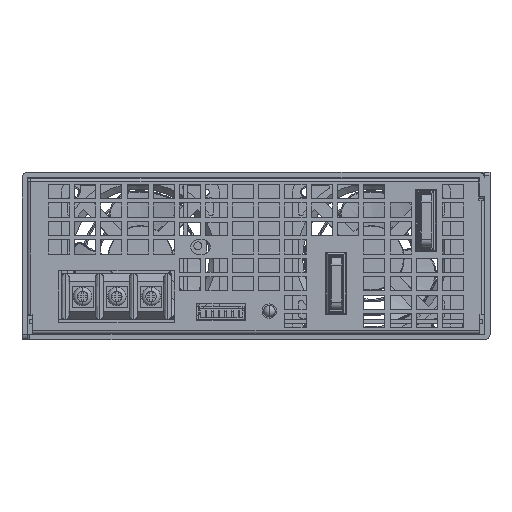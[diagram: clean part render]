
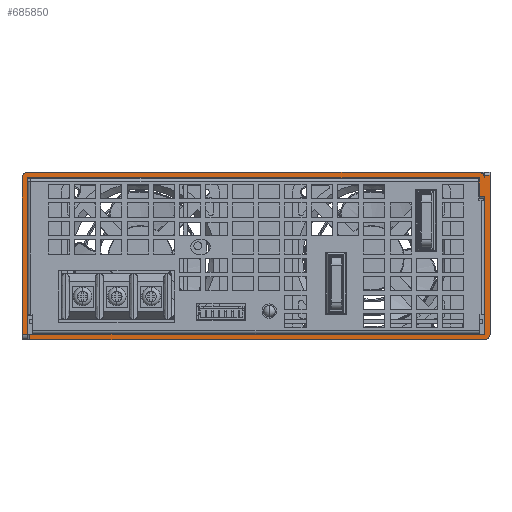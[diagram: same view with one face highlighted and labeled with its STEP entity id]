
A CAD part, left-side view. The second image highlights one B-rep face of the part: STEP entity #685850.
In plain terms, the highlighted planar face has unit normal (-1, 0, 0).
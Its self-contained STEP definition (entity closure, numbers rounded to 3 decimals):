
#627630=CARTESIAN_POINT('',(-2095.796,-302.592,
0.1));
#627640=VERTEX_POINT('',#627630);
#627670=CARTESIAN_POINT('',(-2095.796,-302.492,0.1));
#627680=DIRECTION('',(-1.,0.,0.));
#627690=DIRECTION('',(0.,0.,-1.));
#627700=AXIS2_PLACEMENT_3D('',#627670,#627680,#627690);
#627710=CIRCLE('',#627700,0.1);
#627720=CARTESIAN_POINT('',(-2095.796,-302.492,0.));
#627730=VERTEX_POINT('',#627720);
#627740=EDGE_CURVE('',#627730,#627640,#627710,.T.);
#630170=CARTESIAN_POINT('',(-2095.796,-302.592,60.5));
#630180=VERTEX_POINT('',#630170);
#630210=CARTESIAN_POINT('',(-2095.796,-302.592,
1.807));
#630220=DIRECTION('',(0.,0.,1.));
#630230=VECTOR('',#630220,1.);
#630240=LINE('',#630210,#630230);
#630250=CARTESIAN_POINT('',(-2095.796,-302.592,59.4));
#630260=VERTEX_POINT('',#630250);
#630270=EDGE_CURVE('',#630260,#630180,#630240,.T.);
#630970=CARTESIAN_POINT('',(-2095.796,-302.592,52.5));
#630980=VERTEX_POINT('',#630970);
#631010=EDGE_CURVE('',#627640,#630980,#630240,.T.);
#670610=CARTESIAN_POINT('',(-2095.796,-129.792,-2.));
#670620=VERTEX_POINT('',#670610);
#670670=CARTESIAN_POINT('',(-2095.796,-304.592,-2.));
#670680=DIRECTION('',(0.,-1.,0.));
#670690=VECTOR('',#670680,1.);
#670700=LINE('',#670670,#670690);
#670710=CARTESIAN_POINT('',(-2095.796,-302.492,-2.));
#670720=VERTEX_POINT('',#670710);
#670730=EDGE_CURVE('',#670620,#670720,#670700,.T.);
#676280=CARTESIAN_POINT('',(-2095.796,-300.492,59.4));
#676290=DIRECTION('',(-1.,0.,0.));
#676300=DIRECTION('',(0.,-1.,0.));
#676310=AXIS2_PLACEMENT_3D('',#676280,#676290,#676300);
#676320=CIRCLE('',#676310,0.1);
#676330=CARTESIAN_POINT('',(-2095.796,-300.592,59.4));
#676340=VERTEX_POINT('',#676330);
#676350=CARTESIAN_POINT('',(-2095.796,-300.492,59.5));
#676360=VERTEX_POINT('',#676350);
#676370=EDGE_CURVE('',#676340,#676360,#676320,.T.);
#677580=CARTESIAN_POINT('',(-2095.796,-300.592,52.5));
#677590=VERTEX_POINT('',#677580);
#677620=CARTESIAN_POINT('',(-2095.796,-290.441,52.5));
#677630=DIRECTION('',(0.,1.,0.));
#677640=VECTOR('',#677630,1.);
#677650=LINE('',#677620,#677640);
#677660=EDGE_CURVE('',#630980,#677590,#677650,.T.);
#677860=CARTESIAN_POINT('',(-2095.796,-300.592,
55.693));
#677870=DIRECTION('',(0.,0.,1.));
#677880=VECTOR('',#677870,1.);
#677890=LINE('',#677860,#677880);
#677900=EDGE_CURVE('',#677590,#676340,#677890,.T.);
#684690=CARTESIAN_POINT('',(-2095.796,-302.592,
-173.993));
#684700=DIRECTION('',(-1.,0.,0.));
#684710=DIRECTION('',(0.,0.,-1.));
#684720=AXIS2_PLACEMENT_3D('',#684690,#684700,#684710);
#684730=PLANE('',#684720);
#684740=CARTESIAN_POINT('',(-2095.796,-304.592,0.));
#684750=DIRECTION('',(0.,-1.,0.));
#684760=VECTOR('',#684750,1.);
#684770=LINE('',#684740,#684760);
#684780=CARTESIAN_POINT('',(-2095.796,-129.792,0.));
#684790=VERTEX_POINT('',#684780);
#684800=EDGE_CURVE('',#684790,#627730,#684770,.T.);
#684810=ORIENTED_EDGE('',*,*,#684800,.F.);
#684820=ORIENTED_EDGE('',*,*,#627740,.F.);
#684830=ORIENTED_EDGE('',*,*,#631010,.F.);
#684840=ORIENTED_EDGE('',*,*,#677660,.F.);
#684850=ORIENTED_EDGE('',*,*,#677900,.F.);
#684860=ORIENTED_EDGE('',*,*,#676370,.F.);
#684870=CARTESIAN_POINT('',(-2095.796,-304.592,59.5));
#684880=DIRECTION('',(0.,1.,0.));
#684890=VECTOR('',#684880,1.);
#684900=LINE('',#684870,#684890);
#684910=CARTESIAN_POINT('',(-2095.796,-128.892,59.5));
#684920=VERTEX_POINT('',#684910);
#684930=EDGE_CURVE('',#676360,#684920,#684900,.T.);
#684940=ORIENTED_EDGE('',*,*,#684930,.F.);
#684950=CARTESIAN_POINT('',(-2095.796,-128.892,59.4));
#684960=DIRECTION('',(-1.,0.,0.));
#684970=DIRECTION('',(0.,0.,1.));
#684980=AXIS2_PLACEMENT_3D('',#684950,#684960,#684970);
#684990=CIRCLE('',#684980,0.1);
#685000=CARTESIAN_POINT('',(-2095.796,-128.792,59.4));
#685010=VERTEX_POINT('',#685000);
#685020=EDGE_CURVE('',#684920,#685010,#684990,.T.);
#685030=ORIENTED_EDGE('',*,*,#685020,.F.);
#685040=CARTESIAN_POINT('',(-2095.796,-128.792,59.5));
#685050=DIRECTION('',(0.,0.,-1.));
#685060=VECTOR('',#685050,1.);
#685070=LINE('',#685040,#685060);
#685080=CARTESIAN_POINT('',(-2095.796,-128.792,0.));
#685090=VERTEX_POINT('',#685080);
#685100=EDGE_CURVE('',#685010,#685090,#685070,.T.);
#685110=ORIENTED_EDGE('',*,*,#685100,.F.);
#685120=CARTESIAN_POINT('',(-2095.796,-290.441,0.));
#685130=DIRECTION('',(0.,-1.,0.));
#685140=VECTOR('',#685130,1.);
#685150=LINE('',#685120,#685140);
#685160=CARTESIAN_POINT('',(-2095.796,-126.792,0.));
#685170=VERTEX_POINT('',#685160);
#685180=EDGE_CURVE('',#685170,#685090,#685150,.T.);
#685190=ORIENTED_EDGE('',*,*,#685180,.T.);
#685200=CARTESIAN_POINT('',(-2095.796,-126.792,59.5));
#685210=DIRECTION('',(0.,0.,-1.));
#685220=VECTOR('',#685210,1.);
#685230=LINE('',#685200,#685220);
#685240=CARTESIAN_POINT('',(-2095.796,-126.792,59.4));
#685250=VERTEX_POINT('',#685240);
#685260=EDGE_CURVE('',#685250,#685170,#685230,.T.);
#685270=ORIENTED_EDGE('',*,*,#685260,.T.);
#685280=CARTESIAN_POINT('',(-2095.796,-128.892,59.4));
#685290=DIRECTION('',(-1.,0.,0.));
#685300=DIRECTION('',(0.,0.,1.));
#685310=AXIS2_PLACEMENT_3D('',#685280,#685290,#685300);
#685320=CIRCLE('',#685310,2.1);
#685330=CARTESIAN_POINT('',(-2095.796,-128.892,61.5));
#685340=VERTEX_POINT('',#685330);
#685350=EDGE_CURVE('',#685340,#685250,#685320,.T.);
#685360=ORIENTED_EDGE('',*,*,#685350,.T.);
#685370=CARTESIAN_POINT('',(-2095.796,-128.792,61.5));
#685380=DIRECTION('',(0.,1.,0.));
#685390=VECTOR('',#685380,1.);
#685400=LINE('',#685370,#685390);
#685410=CARTESIAN_POINT('',(-2095.796,-300.492,61.5));
#685420=VERTEX_POINT('',#685410);
#685430=EDGE_CURVE('',#685420,#685340,#685400,.T.);
#685440=ORIENTED_EDGE('',*,*,#685430,.T.);
#685450=CARTESIAN_POINT('',(-2095.796,-300.492,59.4));
#685460=DIRECTION('',(-1.,0.,0.));
#685470=DIRECTION('',(0.,-1.,0.));
#685480=AXIS2_PLACEMENT_3D('',#685450,#685460,#685470);
#685490=CIRCLE('',#685480,2.1);
#685500=EDGE_CURVE('',#630260,#685420,#685490,.T.);
#685510=ORIENTED_EDGE('',*,*,#685500,.T.);
#685520=ORIENTED_EDGE('',*,*,#630270,.F.);
#685530=CARTESIAN_POINT('',(-2095.796,0.,60.5
));
#685540=DIRECTION('',(0.,1.,0.));
#685550=VECTOR('',#685540,1.);
#685560=LINE('',#685530,#685550);
#685570=CARTESIAN_POINT('',(-2095.796,-304.592,60.5));
#685580=VERTEX_POINT('',#685570);
#685590=EDGE_CURVE('',#685580,#630180,#685560,.T.);
#685600=ORIENTED_EDGE('',*,*,#685590,.T.);
#685610=CARTESIAN_POINT('',(-2095.796,-304.592,
1.807));
#685620=DIRECTION('',(0.,0.,1.));
#685630=VECTOR('',#685620,1.);
#685640=LINE('',#685610,#685630);
#685650=CARTESIAN_POINT('',(-2095.796,-304.592,
0.1));
#685660=VERTEX_POINT('',#685650);
#685670=EDGE_CURVE('',#685660,#685580,#685640,.T.);
#685680=ORIENTED_EDGE('',*,*,#685670,.T.);
#685690=CARTESIAN_POINT('',(-2095.796,-302.492,0.1));
#685700=DIRECTION('',(-1.,0.,0.));
#685710=DIRECTION('',(0.,0.,-1.));
#685720=AXIS2_PLACEMENT_3D('',#685690,#685700,#685710);
#685730=CIRCLE('',#685720,2.1);
#685740=EDGE_CURVE('',#670720,#685660,#685730,.T.);
#685750=ORIENTED_EDGE('',*,*,#685740,.T.);
#685760=ORIENTED_EDGE('',*,*,#670730,.T.);
#685770=CARTESIAN_POINT('',(-2095.796,-129.792,
0.));
#685780=DIRECTION('',(0.,0.,-1.));
#685790=VECTOR('',#685780,1.);
#685800=LINE('',#685770,#685790);
#685810=EDGE_CURVE('',#684790,#670620,#685800,.T.);
#685820=ORIENTED_EDGE('',*,*,#685810,.T.);
#685830=EDGE_LOOP('',(#685820,#685760,#685750,#685680,#685600,#685520,
#685510,#685440,#685360,#685270,#685190,#685110,#685030,#684940,#684860,
#684850,#684840,#684830,#684820,#684810));
#685840=FACE_OUTER_BOUND('',#685830,.T.);
#685850=ADVANCED_FACE('',(#685840),#684730,.T.);
